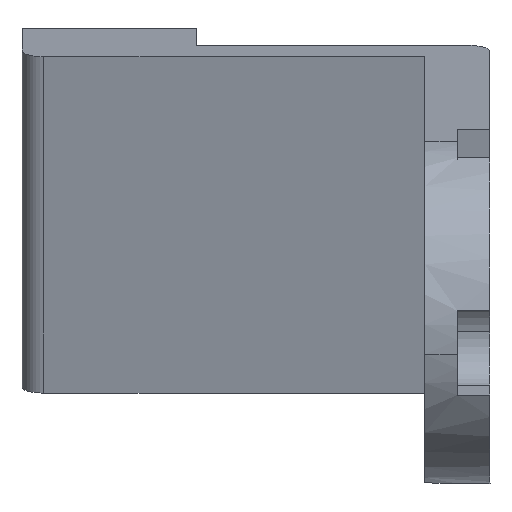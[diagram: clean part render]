
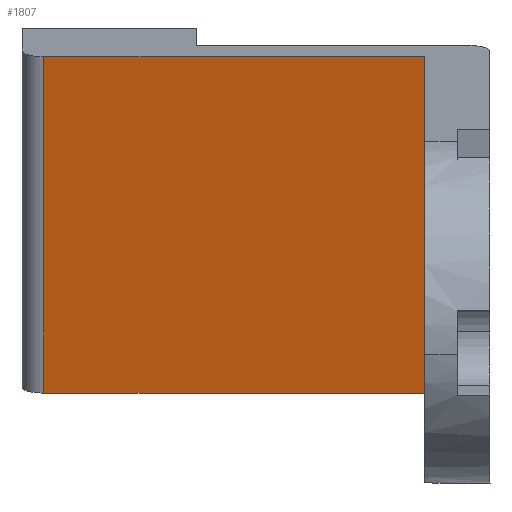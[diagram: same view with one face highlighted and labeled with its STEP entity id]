
A CAD part, left-side view. The second image highlights one B-rep face of the part: STEP entity #1807.
In plain terms, the highlighted planar face has unit normal (-0.966, 0, -0.259) as drawn and (-1, 0, 0) by its records, which use the part's own axes.
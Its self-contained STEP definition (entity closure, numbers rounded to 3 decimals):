
#82 = AXIS2_PLACEMENT_3D ( 'NONE', #1736, #1762, #1173 ) ;
#196 = CARTESIAN_POINT ( 'NONE',  ( 15., -8., 0. ) ) ;
#228 = VERTEX_POINT ( 'NONE', #1526 ) ;
#235 = ORIENTED_EDGE ( 'NONE', *, *, #1125, .T. ) ;
#299 = CARTESIAN_POINT ( 'NONE',  ( 15., -8., -32. ) ) ;
#392 = PLANE ( 'NONE',  #82 ) ;
#426 = CARTESIAN_POINT ( 'NONE',  ( 15., 8., -17.5 ) ) ;
#436 = EDGE_CURVE ( 'NONE', #228, #1123, #1004, .T. ) ;
#449 = DIRECTION ( 'NONE',  ( 0., 0., 1. ) ) ;
#462 = EDGE_CURVE ( 'NONE', #1420, #1578, #572, .T. ) ;
#537 = FACE_OUTER_BOUND ( 'NONE', #1853, .T. ) ;
#572 = LINE ( 'NONE', #876, #625 ) ;
#615 = LINE ( 'NONE', #1644, #1280 ) ;
#625 = VECTOR ( 'NONE', #449, 1000. ) ;
#765 = DIRECTION ( 'NONE',  ( 0., 1., 0. ) ) ;
#837 = ORIENTED_EDGE ( 'NONE', *, *, #462, .F. ) ;
#876 = CARTESIAN_POINT ( 'NONE',  ( 15., 8., -32. ) ) ;
#1004 = LINE ( 'NONE', #299, #1757 ) ;
#1074 = EDGE_CURVE ( 'NONE', #1420, #228, #1432, .T. ) ;
#1123 = VERTEX_POINT ( 'NONE', #196 ) ;
#1125 = EDGE_CURVE ( 'NONE', #1123, #1578, #615, .T. ) ;
#1133 = DIRECTION ( 'NONE',  ( 0., -1., 0. ) ) ;
#1173 = DIRECTION ( 'NONE',  ( 0., 0., 1. ) ) ;
#1280 = VECTOR ( 'NONE', #765, 1000. ) ;
#1317 = ORIENTED_EDGE ( 'NONE', *, *, #436, .T. ) ;
#1360 = VECTOR ( 'NONE', #1133, 1000. ) ;
#1418 = CARTESIAN_POINT ( 'NONE',  ( 15., -44.401, -17.5 ) ) ;
#1420 = VERTEX_POINT ( 'NONE', #426 ) ;
#1432 = LINE ( 'NONE', #1418, #1360 ) ;
#1526 = CARTESIAN_POINT ( 'NONE',  ( 15., -8., -17.5 ) ) ;
#1578 = VERTEX_POINT ( 'NONE', #1815 ) ;
#1595 = DIRECTION ( 'NONE',  ( 0., 0., 1. ) ) ;
#1644 = CARTESIAN_POINT ( 'NONE',  ( 15., 8., 0. ) ) ;
#1718 = ORIENTED_EDGE ( 'NONE', *, *, #1074, .T. ) ;
#1736 = CARTESIAN_POINT ( 'NONE',  ( 15., -44.401, -32. ) ) ;
#1757 = VECTOR ( 'NONE', #1595, 1000. ) ;
#1762 = DIRECTION ( 'NONE',  ( -1., 0., 0. ) ) ;
#1807 = ADVANCED_FACE ( 'NONE', ( #537 ), #392, .T. ) ;
#1815 = CARTESIAN_POINT ( 'NONE',  ( 15., 8., 0. ) ) ;
#1853 = EDGE_LOOP ( 'NONE', ( #837, #1718, #1317, #235 ) ) ;
